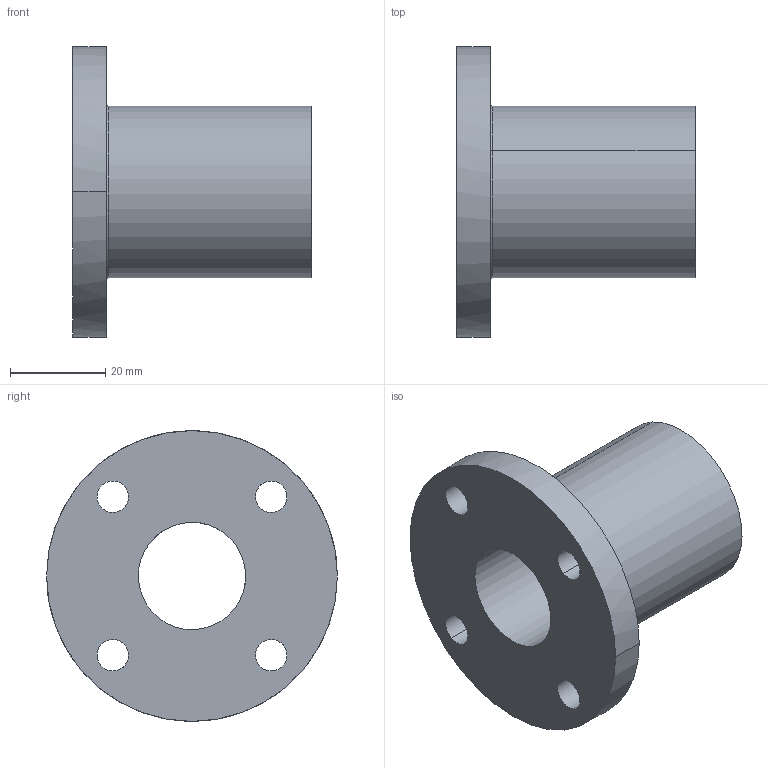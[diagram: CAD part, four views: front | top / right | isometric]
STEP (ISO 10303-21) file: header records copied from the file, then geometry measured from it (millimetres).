
FILE_DESCRIPTION(('CATIA V5 STEP Exchange'),'2;1');
FILE_NAME('C:\Users\aa\Documents\이댈\TM\TTM\TTM22.stp','2020-03-24T02:27:36+00:00',('none'),('none'),'CATIA Version 5 Release 20 SP 7 (IN-10)','CATIA V5 STEP AP203','none');
FILE_SCHEMA(('CONFIG_CONTROL_DESIGN'));
Length unit declared in the file: millimetre
Products named in the file (1): TTM22
Bounding box: 50 x 61 x 61 mm (x, y, z)
Volume: 43393.7 mm3; surface area: 15071.4 mm2
Topology: 1 solids, 1 shells, 19 faces, 46 edges, 30 vertices
Faces by surface type: cylinder 14, plane 3, torus 2
Entity records: 792 total; most frequent: CARTESIAN_POINT 304, ORIENTED_EDGE 92, DIRECTION 73, EDGE_CURVE 46, AXIS2_PLACEMENT_3D 41, EDGE_LOOP 30, VERTEX_POINT 30, CIRCLE 21
